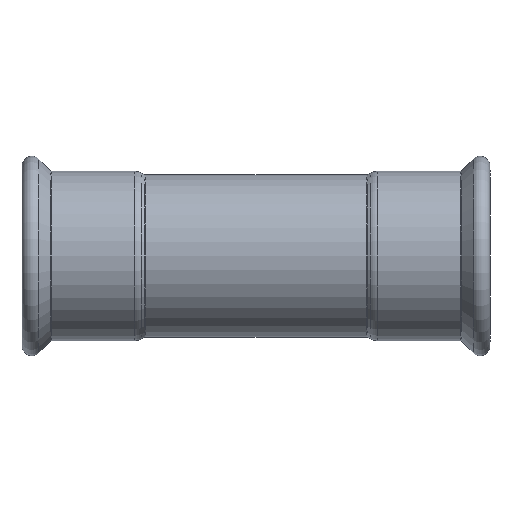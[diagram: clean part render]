
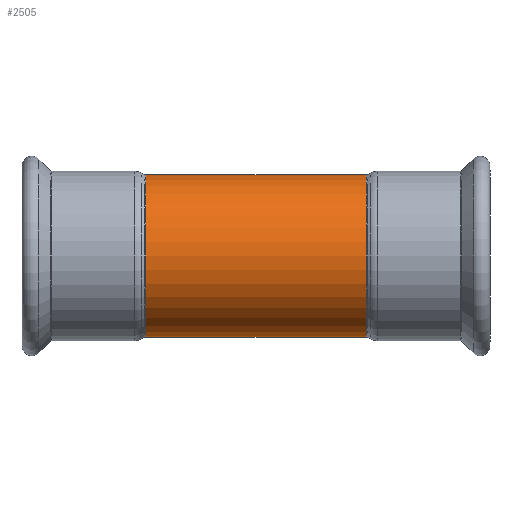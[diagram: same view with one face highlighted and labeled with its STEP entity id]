
A CAD part, front view. The second image highlights one B-rep face of the part: STEP entity #2505.
In plain terms, the highlighted cylindrical face has radius 53.5 mm (diameter 107 mm), a partial arc.
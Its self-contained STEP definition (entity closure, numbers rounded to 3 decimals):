
#418 = LINE ( 'NONE', #3873, #2234 ) ;
#429 = EDGE_CURVE ( 'NONE', #794, #4125, #2658, .T. ) ;
#437 = DIRECTION ( 'NONE',  ( -1., 0., 0. ) ) ;
#552 = DIRECTION ( 'NONE',  ( 0., 0., 1. ) ) ;
#669 = AXIS2_PLACEMENT_3D ( 'NONE', #1412, #437, #2075 ) ;
#714 = CARTESIAN_POINT ( 'NONE',  ( 27.146, 0., -53.5 ) ) ;
#794 = VERTEX_POINT ( 'NONE', #3336 ) ;
#873 = CYLINDRICAL_SURFACE ( 'NONE', #669, 53.5 ) ;
#932 = ORIENTED_EDGE ( 'NONE', *, *, #3734, .F. ) ;
#1016 = CARTESIAN_POINT ( 'NONE',  ( 72.868, 0., 0. ) ) ;
#1109 = EDGE_CURVE ( 'NONE', #2756, #4125, #418, .T. ) ;
#1412 = CARTESIAN_POINT ( 'NONE',  ( 27.146, 0., 0. ) ) ;
#1503 = ORIENTED_EDGE ( 'NONE', *, *, #1109, .T. ) ;
#1682 = DIRECTION ( 'NONE',  ( -1., 0., 0. ) ) ;
#2075 = DIRECTION ( 'NONE',  ( 0., 0., 1. ) ) ;
#2089 = CARTESIAN_POINT ( 'NONE',  ( 72.868, 0., 53.5 ) ) ;
#2234 = VECTOR ( 'NONE', #2596, 1000. ) ;
#2301 = DIRECTION ( 'NONE',  ( -1., 0., 0. ) ) ;
#2489 = FACE_OUTER_BOUND ( 'NONE', #2593, .T. ) ;
#2505 = ADVANCED_FACE ( 'NONE', ( #2489 ), #873, .T. ) ;
#2552 = DIRECTION ( 'NONE',  ( -1., 0., 0. ) ) ;
#2593 = EDGE_LOOP ( 'NONE', ( #932, #3174, #1503, #4112 ) ) ;
#2596 = DIRECTION ( 'NONE',  ( -1., 0., 0. ) ) ;
#2658 = CIRCLE ( 'NONE', #3960, 53.5 ) ;
#2756 = VERTEX_POINT ( 'NONE', #2089 ) ;
#2790 = AXIS2_PLACEMENT_3D ( 'NONE', #1016, #2301, #3270 ) ;
#2794 = VERTEX_POINT ( 'NONE', #3786 ) ;
#3174 = ORIENTED_EDGE ( 'NONE', *, *, #3482, .T. ) ;
#3270 = DIRECTION ( 'NONE',  ( 0., 0., 1. ) ) ;
#3292 = LINE ( 'NONE', #714, #3898 ) ;
#3336 = CARTESIAN_POINT ( 'NONE',  ( -72.868, 0., -53.5 ) ) ;
#3482 = EDGE_CURVE ( 'NONE', #2794, #2756, #3948, .T. ) ;
#3734 = EDGE_CURVE ( 'NONE', #2794, #794, #3292, .T. ) ;
#3775 = CARTESIAN_POINT ( 'NONE',  ( -72.868, 0., 0. ) ) ;
#3781 = CARTESIAN_POINT ( 'NONE',  ( -72.868, 0., 53.5 ) ) ;
#3786 = CARTESIAN_POINT ( 'NONE',  ( 72.868, 0., -53.5 ) ) ;
#3873 = CARTESIAN_POINT ( 'NONE',  ( 27.146, 0., 53.5 ) ) ;
#3898 = VECTOR ( 'NONE', #1682, 1000. ) ;
#3948 = CIRCLE ( 'NONE', #2790, 53.5 ) ;
#3960 = AXIS2_PLACEMENT_3D ( 'NONE', #3775, #2552, #552 ) ;
#4112 = ORIENTED_EDGE ( 'NONE', *, *, #429, .F. ) ;
#4125 = VERTEX_POINT ( 'NONE', #3781 ) ;
